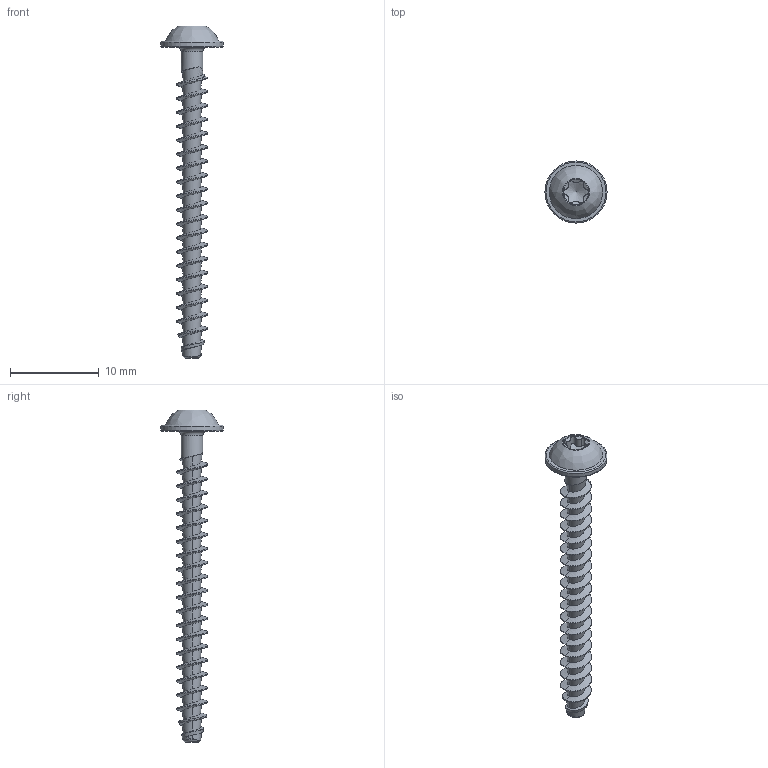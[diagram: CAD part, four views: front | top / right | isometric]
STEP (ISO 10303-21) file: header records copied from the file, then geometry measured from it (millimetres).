
FILE_DESCRIPTION(/* description */ (''),/* implementation_level */ '2;1');
FILE_NAME(/* name */ 'KN1038-STS-35x35-T10.step',/* time_stamp */ '2017-10-12T15:29:52+02:00',/* author */ (''),/* organization */ (''),/* preprocessor_version */ 'ST-DEVELOPER v16',/* originating_system */ 'SIEMENS PLM Software NX 10.0',/* authorisation */ '');
FILE_SCHEMA (('AUTOMOTIVE_DESIGN { 1 0 10303 214 3 1 1 1 }'));
Length unit declared in the file: millimetre
Products named in the file (1): KN1038-STS-35x35-T10
Bounding box: 7 x 7 x 37.4 mm (x, y, z)
Volume: 205.2 mm3; surface area: 552.7 mm2
Topology: 1 solids, 1 shells, 94 faces, 227 edges, 137 vertices
Faces by surface type: bspline 66, cylinder 16, cone 4, torus 4, plane 4
Full cylindrical faces by diameter (mm): 2.44 x1, 2.82 x1, 7 x1
Entity records: 7141 total; most frequent: CARTESIAN_POINT 5461, ORIENTED_EDGE 420, EDGE_CURVE 210, DIRECTION 162, VERTEX_POINT 131, B_SPLINE_CURVE_WITH_KNOTS 121, EDGE_LOOP 106, ADVANCED_FACE 94
